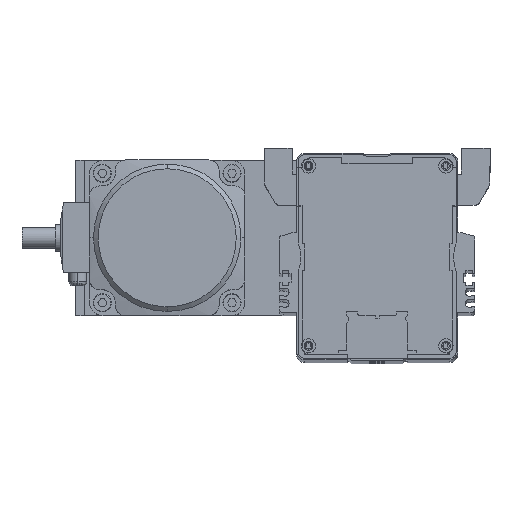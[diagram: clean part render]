
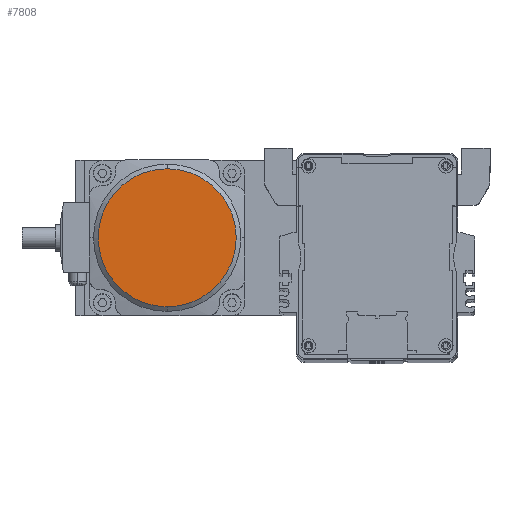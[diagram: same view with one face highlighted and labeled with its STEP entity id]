
A CAD part, top view. The second image highlights one B-rep face of the part: STEP entity #7808.
In plain terms, the highlighted planar face has unit normal (0, 0, 1).
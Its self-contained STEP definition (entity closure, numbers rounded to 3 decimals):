
#31 = EDGE_CURVE ( 'NONE', #42, #40, #31993, .T. ) ;
#40 = VERTEX_POINT ( 'NONE', #32040 ) ;
#42 = VERTEX_POINT ( 'NONE', #32035 ) ;
#7783 = EDGE_CURVE ( 'NONE', #40, #42, #9935, .T. ) ;
#7802 = EDGE_LOOP ( 'NONE', ( #7810, #7811 ) ) ;
#7808 = ADVANCED_FACE ( 'NONE', ( #9995 ), #10043, .F. ) ;
#7810 = ORIENTED_EDGE ( 'NONE', *, *, #31, .F. ) ;
#7811 = ORIENTED_EDGE ( 'NONE', *, *, #7783, .F. ) ;
#9922 = DIRECTION ( 'NONE',  ( 0., 1., 0. ) ) ;
#9923 = DIRECTION ( 'NONE',  ( 0., 0., -1. ) ) ;
#9924 = CARTESIAN_POINT ( 'NONE',  ( 106.19, -4.031, 64. ) ) ;
#9935 = CIRCLE ( 'NONE', #9942, 26.616 ) ;
#9942 = AXIS2_PLACEMENT_3D ( 'NONE', #9924, #9923, #9922 ) ;
#9984 = CARTESIAN_POINT ( 'NONE',  ( 106.19, -4.031, 64. ) ) ;
#9995 = FACE_OUTER_BOUND ( 'NONE', #7802, .T. ) ;
#10013 = AXIS2_PLACEMENT_3D ( 'NONE', #9984, #10039, #10038 ) ;
#10038 = DIRECTION ( 'NONE',  ( 0., 1., 0. ) ) ;
#10039 = DIRECTION ( 'NONE',  ( 0., 0., -1. ) ) ;
#10043 = PLANE ( 'NONE',  #10013 ) ;
#31988 = DIRECTION ( 'NONE',  ( 0., 1., 0. ) ) ;
#31989 = DIRECTION ( 'NONE',  ( 0., 0., -1. ) ) ;
#31990 = AXIS2_PLACEMENT_3D ( 'NONE', #31995, #31989, #31988 ) ;
#31993 = CIRCLE ( 'NONE', #31990, 26.616 ) ;
#31995 = CARTESIAN_POINT ( 'NONE',  ( 106.19, -4.031, 64. ) ) ;
#32035 = CARTESIAN_POINT ( 'NONE',  ( 106.19, 22.585, 64. ) ) ;
#32040 = CARTESIAN_POINT ( 'NONE',  ( 106.19, -30.647, 64. ) ) ;
